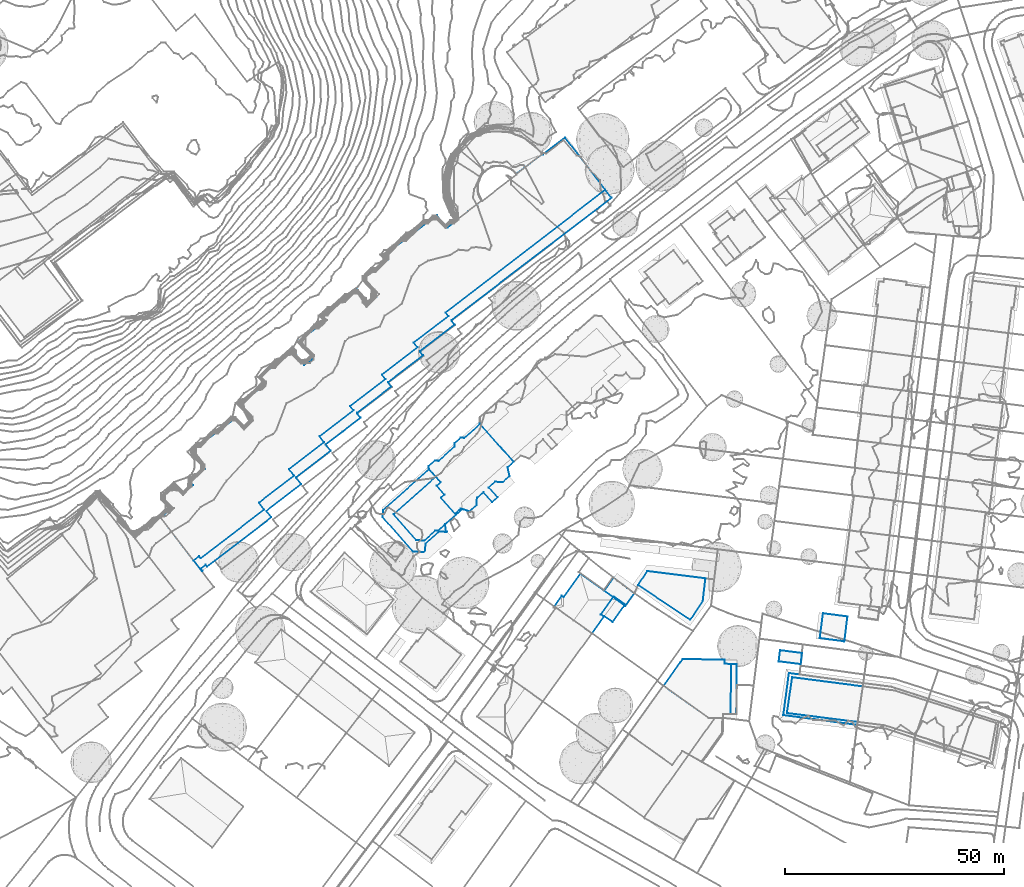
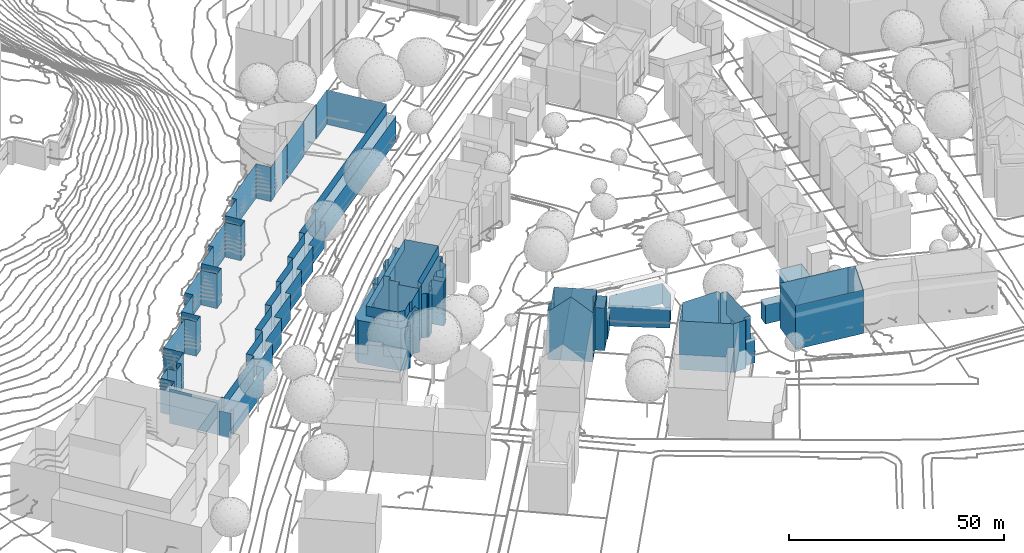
# Not in any storey, part 36 of 477: 10 walls.
"""IFC4 building model written with IfcOpenShell, lengths in metres."""

import ifcopenshell
import ifcopenshell.guid

model = None  # the IFC model being written
_history = None  # IfcOwnerHistory: only IFC2X3 demands one
_inside = {}  # id of a spatial element -> (the spatial element, [elements in it])
_under = {}  # id of a project, library or spatial element -> (it, [spatial elements below it])
_declared = {}  # id of a project -> (the project, [libraries it declares])
_typed = {}  # id of a type object -> (the type object, [elements of that type])
_made_of = {}  # id of a material, layer set ... -> (it, [elements and type objects made of it])


def new_model(schema):
    """Start an empty IFC model of exactly this schema.

    Asked for "IFC4X3", IfcOpenShell would pick the latest addendum, in which some entities
    have other attributes; the version numbers below select the first issue.
    IFC2X3 requires an IfcOwnerHistory on every rooted entity: one is made here for all.
    """
    global model, _history
    if schema == "IFC4X3":
        model = ifcopenshell.file(schema_version=(4, 3, 0, 0))
    else:
        model = ifcopenshell.file(schema=schema)
    _inside.clear()
    _under.clear()
    _declared.clear()
    _typed.clear()
    _made_of.clear()
    _history = None
    if model.schema == "IFC2X3":
        org = make("IfcOrganization", Name="unknown")
        user = make(
            "IfcPersonAndOrganization",
            ThePerson=make("IfcPerson", FamilyName="unknown"),
            TheOrganization=org,
        )
        app = make(
            "IfcApplication",
            ApplicationDeveloper=org,
            Version="unknown",
            ApplicationFullName="unknown",
            ApplicationIdentifier="unknown",
        )
        _history = make(
            "IfcOwnerHistory",
            OwningUser=user,
            OwningApplication=app,
            ChangeAction="ADDED",
            CreationDate=0,
        )
    return model


def make(cls, **values):
    """One entity of the class cls with the attributes given. An attribute that is None is left unset."""
    return model.create_entity(
        cls, **{name: value for name, value in values.items() if value is not None}
    )


def rooted(cls, **values):
    """An entity with a GlobalId (a new one), such as an element, a storey or a relation."""
    return make(cls, GlobalId=ifcopenshell.guid.new(), OwnerHistory=_history, **values)


def si_unit(unit_type, name, prefix=None):
    """IfcSIUnit, for example si_unit("LENGTHUNIT", "METRE", prefix="MILLI")."""
    return make("IfcSIUnit", UnitType=unit_type, Prefix=prefix, Name=name)


def assignment(units):
    """IfcUnitAssignment: the units of a project."""
    return None if units is None else make("IfcUnitAssignment", Units=units)


def point(xyz):
    """IfcCartesianPoint."""
    return None if xyz is None else make("IfcCartesianPoint", Coordinates=xyz)


def direction(xyz):
    """IfcDirection."""
    return None if xyz is None else make("IfcDirection", DirectionRatios=xyz)


def frame(location, z_axis=None, x_axis=None):
    """IfcAxis2Placement3D, a coordinate frame: its origin and axes. An axis left out is left unset."""
    return make(
        "IfcAxis2Placement3D",
        Location=point(location),
        Axis=direction(z_axis),
        RefDirection=direction(x_axis),
    )


def origin_with_axes():
    """The frame at (0, 0, 0) with the z axis (0, 0, 1) and the x axis (1, 0, 0) written out."""
    return frame((0.0, 0.0, 0.0), z_axis=(0.0, 0.0, 1.0), x_axis=(1.0, 0.0, 0.0))


def place(relative_to, where):
    """IfcLocalPlacement: puts the frame where relative to a parent placement (None: the world)."""
    return make(
        "IfcLocalPlacement", PlacementRelTo=relative_to, RelativePlacement=where
    )


def context(
    kind, dimensions, precision=None, world=None, true_north=None, identifier=None
):
    """IfcGeometricRepresentationContext, for example the 3D "Model" context."""
    return make(
        "IfcGeometricRepresentationContext",
        ContextIdentifier=identifier,
        ContextType=kind,
        CoordinateSpaceDimension=dimensions,
        Precision=precision,
        WorldCoordinateSystem=world,
        TrueNorth=true_north,
    )


def subcontext(parent, identifier, kind, view, scale=None):
    """IfcGeometricRepresentationSubContext, for example "Body" below "Model"."""
    return make(
        "IfcGeometricRepresentationSubContext",
        ContextIdentifier=identifier,
        ContextType=kind,
        ParentContext=parent,
        TargetScale=scale,
        TargetView=view,
    )


def project(units=None, contexts=None):
    """IfcProject with its units and contexts."""
    return rooted(
        "IfcProject",
        Name="project",
        RepresentationContexts=contexts,
        UnitsInContext=assignment(units),
    )


def spatial(cls, under=None, at=None, **own):
    """A site, building, storey or space (cls), placed at a placement, below another one or the project."""
    s = rooted(cls, ObjectPlacement=at, **own)
    if under is not None:
        _under.setdefault(under.id(), (under, []))[1].append(s)
    return s


def point_list(points):
    """IfcCartesianPointList2D or 3D."""
    cls = (
        "IfcCartesianPointList2D" if len(points[0]) == 2 else "IfcCartesianPointList3D"
    )
    return make(cls, CoordList=points)


def polygons(points, faces, closed=None, point_numbers=None):
    """IfcPolygonalFaceSet: a face is its outer loop, then its inner loops; points numbered from 1."""
    made = []
    for loops in faces:
        if len(loops) == 1:
            made.append(make("IfcIndexedPolygonalFace", CoordIndex=loops[0]))
        else:
            made.append(
                make(
                    "IfcIndexedPolygonalFaceWithVoids",
                    CoordIndex=loops[0],
                    InnerCoordIndices=loops[1:],
                )
            )
    return make(
        "IfcPolygonalFaceSet",
        Coordinates=point_list(points),
        Closed=closed,
        Faces=made,
        PnIndex=point_numbers,
    )


def shape(context_of_items, identifier, shape_type, items):
    """IfcShapeRepresentation: the items that make up one representation, for example the "Body"."""
    return make(
        "IfcShapeRepresentation",
        ContextOfItems=context_of_items,
        RepresentationIdentifier=identifier,
        RepresentationType=shape_type,
        Items=items,
    )


def made_of(thing, what):
    """Note that an element or type object is made of a material, layer set ...; save() writes the relation."""
    if what is not None:
        _made_of.setdefault(what.id(), (what, []))[1].append(thing)
    return thing


def element(
    cls,
    number,
    at=None,
    inside=None,
    cuts=None,
    type_object=None,
    material=None,
    context=None,
    identifier="Body",
    shape_type=None,
    held_by="IfcProductDefinitionShape",
    body=None,
    shapes=None,
    **own,
):
    """One element of the class cls, such as IfcWall. Its Tag is "e" and its number.

    at: its placement. inside: the storey or other place that contains it. cuts: it is an
    opening in that element (IfcRelVoidsElement). A single representation is given by context,
    identifier, shape_type and body (its items); several are given by shapes. held_by: the class
    of the entity that holds the representations. save() writes the other relations.
    """
    e = rooted(cls, Tag="e%d" % number, ObjectPlacement=at, **own)
    if body is not None:
        shapes = [shape(context, identifier, shape_type, body)]
    if shapes is not None:
        e.Representation = make(held_by, Representations=shapes)
    if inside is not None:
        _inside.setdefault(inside.id(), (inside, []))[1].append(e)
    if cuts is not None:
        rooted(
            "IfcRelVoidsElement", RelatingBuildingElement=cuts, RelatedOpeningElement=e
        )
    if type_object is not None:
        _typed.setdefault(type_object.id(), (type_object, []))[1].append(e)
    return made_of(e, material)


def aggregate(whole, parts):
    """IfcRelAggregates: a whole, such as a stair, and the parts it consists of."""
    return rooted("IfcRelAggregates", RelatingObject=whole, RelatedObjects=parts)


def save(model, path):
    """Write the relations noted so far, then the file.

    IfcRelAggregates (storeys below a building ...), IfcRelContainedInSpatialStructure (elements
    in a storey), IfcRelDefinesByType, IfcRelAssociatesMaterial and IfcRelDeclares: one each for
    every whole, place, type object, material and project.
    """
    for whole, parts in _under.values():
        aggregate(whole, parts)
    for where, things in _inside.values():
        rooted(
            "IfcRelContainedInSpatialStructure",
            RelatedElements=things,
            RelatingStructure=where,
        )
    for kind, things in _typed.values():
        rooted("IfcRelDefinesByType", RelatedObjects=things, RelatingType=kind)
    for what, things in _made_of.values():
        rooted("IfcRelAssociatesMaterial", RelatedObjects=things, RelatingMaterial=what)
    for by, libraries in _declared.values():
        rooted("IfcRelDeclares", RelatingContext=by, RelatedDefinitions=libraries)
    model.write(path)


model = new_model("IFC4")

# Units and contexts
model_context = context("Model", 3, precision=1e-05, world=origin_with_axes())
body_context = subcontext(model_context, "Body", "Model", "MODEL_VIEW")
ifc_project = project(units=[si_unit("AREAUNIT", "SQUARE_METRE"), si_unit("LENGTHUNIT", "METRE")], contexts=[model_context])

# Sites, building
site_1_placement = place(None, origin_with_axes())
site_1 = spatial("IfcSite", under=ifc_project, at=site_1_placement, Name="Topoexport Site")
site_2_placement = place(site_1_placement, origin_with_axes())
site_2 = spatial("IfcSite", under=site_1, at=site_2_placement, Name="TPX_BUILDINGS")
building_1_placement = place(site_2_placement, frame((340.8067320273, 67.2771160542, 499.5586), z_axis=(0.0, 0.0, 1.0), x_axis=(1.0, 0.0, 0.0)))
building_1 = spatial("IfcBuilding", under=site_2, at=building_1_placement, Name="Building 0", CompositionType="ELEMENT")

# Wall
wall_1_placement = place(None, frame((340.8067320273, 67.2771160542, 499.5586), z_axis=(0.0, 0.0, 1.0), x_axis=(1.0, 0.0, 0.0)))
element("IfcWall", 1, at=wall_1_placement, inside=building_1, Name="Wall 0", context=body_context, shape_type="Tessellation", body=[
    polygons([(7.5969999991, -9.3476000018, 0.095), (6.2359999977, -10.5556000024, 15.3595), (7.5969999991, -9.3476000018, 15.3595), (7.5209999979, -7.7851000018, 12.5588), (7.5929999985, -9.2568000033, 12.5588), (7.5209999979, -7.7851000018, 15.3595), (7.5929999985, -9.2568000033, 0.095), (18.8200000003, 2.2441999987, 12.5588), (18.8200000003, 2.2441999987, 15.3595), (1.6530000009, -1.8671000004, 12.5588), (13.2949999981, 8.4667999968, 15.3595), (1.6530000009, -1.8671000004, 15.3595), (11.699000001, 10.0976999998, 0.0), (11.7049999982, 10.2568999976, 12.5588), (11.699000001, 10.0976999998, 12.5588), (8.1259999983, 6.9316999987, 0.0), (8.1259999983, 6.9316999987, 12.5588), (8.0399999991, 7.0283999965, 0.0), (8.0399999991, 7.0283999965, 12.5588), (7.3550000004, 7.0566999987, 0.0), (7.3550000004, 7.0566999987, 12.5588), (5.9439999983, 5.8046999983, 0.0), (5.9439999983, 5.8046999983, 12.5588), (5.8999999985, 5.1328999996, 0.0), (5.8999999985, 5.1328999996, 12.5588), (5.9859999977, 5.0351999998, 0.0), (5.9859999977, 5.0351999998, 12.5588), (2.2349999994, 1.7138999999, 0.0), (2.2349999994, 1.7138999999, 12.5588), (2.1490000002, 1.8105999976, 0.0), (2.1490000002, 1.8105999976, 12.5588), (1.4869999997, 1.8486999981, 0.0), (1.4869999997, 1.8486999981, 12.5588), (0.0379999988, 0.5615999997, 0.0), (0.0379999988, 0.5615999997, 12.5588), (0.0, 0.0, 0.0), (0.0, 0.0, 12.5588), (9.0009999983, -9.7988000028, 0.0), (8.8339999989, -9.6103000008, 12.5588), (9.0009999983, -9.7988000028, 12.5588), (9.3159999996, -9.8183000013, 0.0), (9.3159999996, -9.8183000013, 12.5588), (10.9439999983, -8.3740000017, 0.0), (10.9439999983, -8.3740000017, 12.5588), (11.0419999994, -6.6972000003, 0.0), (11.0419999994, -6.6972000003, 12.5588), (12.5170000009, -5.3916000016, 0.0), (12.5170000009, -5.3916000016, 12.5588), (14.5480000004, -7.6601000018, 0.0), (14.5480000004, -7.6601000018, 12.5588), (15.7719999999, -6.5732000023, 0.0), (15.7719999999, -6.5732000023, 12.5588), (13.7280000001, -4.3193000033, 0.0), (13.7280000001, -4.3193000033, 12.5588), (15.1950000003, -3.0205000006, 0.0), (15.1950000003, -3.0205000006, 12.5588), (16.8829999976, -3.1611000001, 0.0), (16.8829999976, -3.1611000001, 12.5588), (18.4919999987, -1.7119000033, 0.0), (18.4919999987, -1.7119000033, 12.5588), (18.0460000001, 0.2822999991, 0.0), (18.0460000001, 0.2822999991, 12.5588), (19.4529999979, 1.5312999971, 0.0), (19.4529999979, 1.5312999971, 12.5588), (7.3299999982, -9.1816000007, 0.0), (6.0359999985, -10.3291000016, 0.0), (7.3299999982, -9.1816000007, 0.095), (8.8339999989, -9.6103000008, 0.0), (1.862999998, -3.9589000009, 0.0), (2.7839999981, -3.1435000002, 15.3595), (1.862999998, -3.9589000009, 15.3595), (6.2359999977, -10.5556000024, 0.095), (6.0359999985, -10.3291000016, 0.095), (2.8039999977, -6.6796000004, 15.3595), (2.8039999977, -6.6796000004, 0.0), (13.2949999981, 8.4667999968, 12.5588), (11.7049999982, 10.2568999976, 0.0), (2.7839999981, -3.1435000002, 0.0), (3.6270000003, -5.9501000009, 0.0), (3.6270000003, -5.9501000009, 15.3595)], [[[3, 2, 1]], [[6, 5, 4]], [[5, 6, 3]], [[5, 1, 7]], [[1, 5, 3]], [[9, 6, 8]], [[12, 11, 10]], [[15, 14, 13]], [[17, 15, 16]], [[19, 17, 18]], [[21, 19, 20]], [[23, 21, 22]], [[25, 23, 24]], [[27, 25, 26]], [[29, 27, 28]], [[31, 29, 30]], [[33, 31, 32]], [[35, 33, 34]], [[37, 35, 36]], [[40, 39, 38]], [[42, 40, 41]], [[44, 42, 43]], [[46, 44, 45]], [[48, 46, 47]], [[50, 48, 49]], [[52, 50, 51]], [[54, 52, 53]], [[56, 54, 55]], [[58, 56, 57]], [[60, 58, 59]], [[62, 60, 61]], [[64, 62, 63]], [[67, 66, 65]], [[68, 39, 7]], [[7, 39, 5]], [[7, 67, 65]], [[7, 65, 68]], [[71, 70, 69]], [[2, 73, 72]], [[73, 2, 74]], [[73, 75, 66]], [[75, 73, 74]], [[77, 76, 63]], [[76, 77, 14]], [[9, 8, 11]], [[64, 63, 8]], [[70, 12, 10]], [[78, 10, 36]], [[10, 78, 70]], [[80, 71, 79]], [[74, 80, 75]], [[2, 72, 1]], [[6, 4, 8]], [[11, 76, 10]], [[14, 77, 13]], [[15, 13, 16]], [[17, 16, 18]], [[19, 18, 20]], [[21, 20, 22]], [[23, 22, 24]], [[25, 24, 26]], [[27, 26, 28]], [[29, 28, 30]], [[31, 30, 32]], [[33, 32, 34]], [[35, 34, 36]], [[39, 68, 38]], [[40, 38, 41]], [[42, 41, 43]], [[44, 43, 45]], [[46, 45, 47]], [[48, 47, 49]], [[50, 49, 51]], [[52, 51, 53]], [[54, 53, 55]], [[56, 55, 57]], [[58, 57, 59]], [[60, 59, 61]], [[62, 61, 63]], [[73, 66, 67]], [[70, 78, 69]], [[76, 8, 63]], [[8, 76, 11]], [[10, 37, 36]], [[71, 69, 79]], [[80, 79, 75]]]),
])

# Building
building_2_placement = place(site_2_placement, frame((330.2977320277, 56.1951160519, 500.0165), z_axis=(0.0, 0.0, 1.0), x_axis=(1.0, 0.0, 0.0)))
building_2 = spatial("IfcBuilding", under=site_2, at=building_2_placement, Name="Building 1", CompositionType="ELEMENT")

# Wall
wall_2_placement = place(None, frame((330.2977320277, 56.1951160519, 500.0165), z_axis=(0.0, 0.0, 1.0), x_axis=(1.0, 0.0, 0.0)))
element("IfcWall", 2, at=wall_2_placement, inside=building_2, Name="Wall 0", context=body_context, shape_type="Tessellation", body=[
    polygons([(16.7449999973, 0.5263999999, -0.028), (14.3189999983, -1.6279000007, 12.1009), (16.7449999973, 0.5263999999, 14.9016), (12.6629999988, -3.0986000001, 14.9016), (12.6629999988, -3.0986000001, -0.028), (14.3189999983, -1.6279000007, 0.0), (12.6629999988, -3.0986000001, 12.1009), (12.6629999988, -3.0986000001, 0.0), (13.3129999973, 4.4024000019, 14.9016), (13.3129999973, 4.4024000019, -0.028), (13.2929999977, 7.938500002, -0.028), (12.3719999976, 7.1231000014, 14.9016), (13.2929999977, 7.938500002, 14.9016), (2.4809999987, 0.6220999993, 12.1009), (12.1620000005, 9.2149000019, 14.9016), (2.4809999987, 0.6220999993, 14.9016), (7.6979999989, -5.254900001, -0.028), (2.4809999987, 0.6220999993, 0.0), (7.6979999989, -5.254900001, 0.0), (9.4509999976, -5.4442999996, -0.028), (9.4509999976, -5.4442999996, 0.0), (12.0229999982, -3.1611000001, -0.028), (12.0229999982, -3.1611000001, 0.0), (0.1019999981, 1.5967000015, 0.0), (10.6409999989, 10.932599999, 12.1009), (0.1019999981, 1.5967000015, 12.1009), (0.0, 0.0, 0.0), (0.0, 0.0, 12.1009), (6.9910000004, -7.8768999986, 0.0), (6.9910000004, -7.8768999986, 12.1009), (9.3449999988, -8.0175999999, 0.0), (9.3449999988, -8.0175999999, 12.1009), (9.7049999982, -7.7245999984, 0.0), (9.7049999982, -7.7245999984, 12.1009), (9.8019999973, -6.0546999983, 0.0), (9.8019999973, -6.0546999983, 12.1009), (12.8499999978, -3.316399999, 0.0), (12.8499999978, -3.316399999, 12.1009), (14.5249999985, -3.4404000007, 0.0), (14.5249999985, -3.4404000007, 12.1009), (14.6799999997, -3.3037, 0.0), (14.6799999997, -3.3037, 12.1009), (14.3640000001, -2.9481999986, 0.0), (14.3640000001, -2.9481999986, 12.1009), (14.1359999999, 5.1319000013, -0.028), (14.1359999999, 5.1319000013, 14.9016), (12.3719999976, 7.1231000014, -0.028), (2.4809999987, 0.6220999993, -0.028), (12.1620000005, 9.2149000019, 0.0), (7.6979999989, -5.254900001, 12.1009), (7.6979999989, -5.254900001, 14.9016), (9.4509999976, -5.4442999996, 12.1009), (9.4509999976, -5.4442999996, 14.9016), (12.0229999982, -3.1611000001, 12.1009), (12.0229999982, -3.1611000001, 14.9016), (12.1620000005, 9.2149000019, 12.1009), (12.1620000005, 9.2149000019, -0.028), (10.6409999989, 10.932599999, 0.0)], [[[3, 2, 1]], [[2, 3, 4]], [[1, 6, 5]], [[6, 1, 2]], [[4, 7, 2]], [[8, 5, 6]], [[10, 9, 3]], [[13, 12, 11]], [[16, 15, 14]], [[19, 18, 17]], [[21, 19, 20]], [[23, 21, 22]], [[8, 23, 5]], [[26, 25, 24]], [[28, 26, 27]], [[30, 28, 29]], [[32, 30, 31]], [[34, 32, 33]], [[36, 34, 35]], [[38, 36, 37]], [[40, 38, 39]], [[42, 40, 41]], [[44, 42, 43]], [[46, 9, 45]], [[12, 45, 47]], [[18, 49, 48]], [[51, 16, 50]], [[53, 51, 52]], [[55, 53, 54]], [[4, 55, 7]], [[2, 44, 6]], [[56, 49, 25]], [[57, 49, 11]], [[56, 13, 11]], [[3, 1, 10]], [[12, 47, 11]], [[15, 56, 14]], [[18, 48, 17]], [[19, 17, 20]], [[21, 20, 22]], [[23, 22, 5]], [[25, 58, 24]], [[26, 24, 27]], [[28, 27, 29]], [[30, 29, 31]], [[32, 31, 33]], [[34, 33, 35]], [[36, 35, 37]], [[38, 37, 39]], [[40, 39, 41]], [[42, 41, 43]], [[9, 10, 45]], [[46, 45, 12]], [[49, 57, 48]], [[16, 14, 50]], [[51, 50, 52]], [[53, 52, 54]], [[55, 54, 7]], [[44, 43, 6]], [[49, 58, 25]], [[15, 13, 56]], [[11, 49, 56]]]),
])

# Building
building_3_placement = place(site_2_placement, frame((388.6417320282, 40.6092160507, 499.4665), z_axis=(0.0, 0.0, 1.0), x_axis=(1.0, 0.0, 0.0)))
building_3 = spatial("IfcBuilding", under=site_2, at=building_3_placement, Name="Building 5", CompositionType="ELEMENT")

# Wall
wall_3_placement = place(None, frame((388.6417320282, 40.6092160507, 499.4665), z_axis=(0.0, 0.0, 1.0), x_axis=(1.0, 0.0, 0.0)))
element("IfcWall", 3, at=wall_3_placement, inside=building_3, Name="Wall 0", context=body_context, shape_type="Tessellation", body=[
    polygons([(15.425999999, 1.5498000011, 0.0), (14.8159999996, -3.6132999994, 5.8824), (15.425999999, 1.5498000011, 5.8824), (2.1380000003, 3.2187000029, 0.0), (2.1380000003, 3.2187000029, 5.8824), (0.0, 0.0, 0.0), (0.0, 0.0, 5.8824), (11.9599999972, -7.9247999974, 0.0), (11.9599999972, -7.9247999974, 5.8824), (14.8159999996, -3.6132999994, 0.0)], [[[3, 2, 1]], [[5, 3, 4]], [[7, 5, 6]], [[9, 7, 8]], [[2, 9, 10]], [[2, 10, 1]], [[3, 1, 4]], [[5, 4, 6]], [[7, 6, 8]], [[9, 8, 10]]]),
])

# Building
building_4_placement = place(site_2_placement, frame((369.4907320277, 35.7234160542, 499.6315), z_axis=(0.0, 0.0, 1.0), x_axis=(1.0, 0.0, 0.0)))
building_4 = spatial("IfcBuilding", under=site_2, at=building_4_placement, Name="Building 6", CompositionType="ELEMENT")

# Wall
wall_4_placement = place(None, frame((369.4907320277, 35.7234160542, 499.6315), z_axis=(0.0, 0.0, 1.0), x_axis=(1.0, 0.0, 0.0)))
element("IfcWall", 4, at=wall_4_placement, inside=building_4, Name="Wall 0", context=body_context, shape_type="Tessellation", body=[
    polygons([(16.629999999, 4.2685999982, -0.038), (18.318, 3.0195999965, 5.3015), (16.629999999, 4.2685999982, 5.3015), (13.5739999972, 6.5800999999, -0.038), (13.5739999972, 6.5800999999, 5.3015), (11.4210000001, 3.5898999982, 0.0), (11.4210000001, 3.5898999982, 5.3015), (11.4210000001, 3.5898999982, -0.038), (18.318, 3.0195999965, -0.038), (16.2229999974, 0.1318999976, 5.3015), (11.4769999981, -2.2109000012, -0.021), (11.3949999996, -2.3252000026, 12.0918), (11.4769999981, -2.2109000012, 12.0918), (13.3389999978, -3.5127000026, -0.021), (13.3389999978, -3.5127000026, 12.0918), (11.3949999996, -2.3252000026, -0.021), (11.3649999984, -2.3027000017, 0.0), (11.3649999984, -2.3027000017, 12.0918), (10.6519999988, -1.7890000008, -0.021), (16.2009999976, 0.4609999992, 12.0918), (16.2009999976, 0.4609999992, 5.3015), (16.0519999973, 0.2548999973, 5.3015), (16.0519999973, 0.2548999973, -0.021), (13.6149999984, 2.3232999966, 5.3015), (13.6149999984, 2.3232999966, 12.0918), (13.4670000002, 2.1171999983, 0.0), (10.6519999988, -1.7890000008, 0.0), (2.1679999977, 2.1728999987, 0.0), (5.9979999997, 7.495199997, 13.9787), (2.1679999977, 2.1728999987, 13.9787), (1.7650000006, 2.4628999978, 0.0), (1.7650000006, 2.4628999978, 13.9787), (13.4670000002, 2.1171999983, -0.021), (16.2229999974, 0.1318999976, -0.038), (13.4659999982, 2.116299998, 12.0918), (13.4670000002, 2.1171999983, 5.3015), (14.1779999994, 1.6035999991, 12.0918), (14.1779999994, 1.6035999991, 13.9787), (8.5969999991, -6.1464000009, 13.9786), (8.5969999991, -6.1464000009, 0.0), (5.9979999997, 7.495199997, 0.0), (11.4210000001, 3.5898999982, 13.9787), (1.6439999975, 2.2939999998, 14.1017), (0.0, 0.0, 14.1067), (0.0, 0.0, 0.0), (0.5480000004, -0.3916000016, 14.1346), (0.0249999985, -0.0175000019, 14.1326), (4.4399999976, -3.1738000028, 18.1723), (4.4399999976, -3.1738000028, 0.0), (0.5480000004, -0.3916000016, 0.0)], [[[3, 2, 1]], [[5, 3, 4]], [[7, 5, 6]], [[6, 4, 8]], [[2, 10, 9]], [[13, 12, 11]], [[15, 13, 14]], [[12, 17, 16]], [[17, 12, 18]], [[16, 17, 19]], [[22, 21, 20]], [[22, 15, 14]], [[15, 22, 20]], [[22, 14, 23]], [[25, 20, 24]], [[27, 26, 19]], [[30, 29, 28]], [[32, 30, 31]], [[23, 10, 22]], [[34, 23, 33]], [[26, 6, 33]], [[33, 8, 34]], [[8, 33, 6]], [[25, 36, 35]], [[38, 18, 37]], [[18, 38, 39]], [[18, 40, 17]], [[40, 18, 39]], [[29, 7, 41]], [[7, 29, 42]], [[6, 41, 7]], [[42, 38, 35]], [[37, 35, 38]], [[36, 7, 35]], [[35, 7, 42]], [[44, 43, 32]], [[44, 32, 45]], [[32, 31, 45]], [[47, 44, 46]], [[39, 48, 46]], [[49, 39, 46]], [[46, 44, 50]], [[45, 50, 44]], [[49, 40, 39]], [[49, 46, 50]], [[2, 9, 1]], [[3, 1, 4]], [[5, 4, 6]], [[10, 34, 9]], [[12, 16, 11]], [[13, 11, 14]], [[17, 27, 19]], [[20, 21, 24]], [[26, 33, 19]], [[29, 41, 28]], [[30, 28, 31]], [[34, 10, 23]], [[24, 36, 25]]]),
])

# Building
building_5_placement = place(site_2_placement, frame((394.4647320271, 17.5984160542, 499.0235), z_axis=(0.0, 0.0, 1.0), x_axis=(1.0, 0.0, 0.0)))
building_5 = spatial("IfcBuilding", under=site_2, at=building_5_placement, Name="Building 22", CompositionType="ELEMENT")

# Wall
wall_5_placement = place(None, frame((394.4647320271, 17.5984160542, 499.0235), z_axis=(0.0, 0.0, 1.0), x_axis=(1.0, 0.0, 0.0)))
element("IfcWall", 5, at=wall_5_placement, inside=building_5, Name="Wall 0", context=body_context, shape_type="Tessellation", body=[
    polygons([(13.938000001, 5.995199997, 0.0), (13.9409999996, 5.0370999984, 13.8347), (13.938000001, 5.995199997, 13.8347), (10.2760000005, -7.3496000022, 0.0), (0.0, 0.0, 13.8347), (10.2760000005, -7.3496000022, 13.8347), (13.493999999, -7.3613000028, 0.0), (13.495000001, -7.3378000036, 7.1923), (13.493999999, -7.3613000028, 13.8347), (13.6490000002, -6.4091000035, 0.0), (13.6359999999, -7.3623000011, 13.8347), (13.6490000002, -6.4091000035, 13.8347), (15.4910000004, 5.0146999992, 7.1923), (15.3619999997, -6.4326000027, 7.1923), (15.4910000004, 5.0146999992, 13.8347), (16.7879999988, 4.995199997, 0.0), (16.6579999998, -6.4521000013, 7.1923), (16.7879999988, 4.995199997, 7.1923), (4.3720000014, 6.1025999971, 0.0), (4.3720000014, 6.1025999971, 13.8347), (13.6359999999, -7.3623000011, 0.0), (15.4910000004, 5.0146999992, 0.0), (13.9409999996, 5.0370999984, 0.0), (0.0, 0.0, 0.0), (3.7740000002, 5.2734999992, 13.8347), (3.7740000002, 5.2734999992, 0.0), (11.8640000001, -7.3427000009, 13.8347), (11.8640000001, -7.3427000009, 0.0), (13.495000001, -7.3369000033, 0.0), (12.8969999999, -7.3437000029, 0.0), (13.495000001, -7.3369000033, 13.8347), (11.7419999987, -7.3427000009, 0.0), (11.7419999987, -7.3427000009, 13.8347), (15.3619999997, -6.433600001, 0.0), (16.6579999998, -6.4521000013, 0.0), (15.3619999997, -6.433600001, 13.8347)], [[[3, 2, 1]], [[6, 5, 4]], [[9, 8, 7]], [[12, 11, 10]], [[15, 14, 13]], [[18, 17, 16]], [[19, 3, 1]], [[3, 19, 20]], [[11, 9, 21]], [[23, 13, 22]], [[18, 22, 13]], [[5, 25, 24]], [[19, 26, 20]], [[28, 8, 27]], [[30, 29, 8]], [[28, 30, 8]], [[8, 31, 27]], [[28, 27, 32]], [[32, 33, 4]], [[34, 17, 14]], [[34, 35, 17]], [[14, 12, 10]], [[12, 14, 36]], [[14, 10, 34]], [[2, 23, 1]], [[5, 24, 4]], [[31, 8, 9]], [[8, 29, 7]], [[11, 21, 10]], [[36, 14, 15]], [[17, 35, 16]], [[9, 7, 21]], [[2, 15, 13]], [[2, 13, 23]], [[16, 22, 18]], [[25, 26, 24]], [[26, 25, 20]], [[27, 33, 32]], [[33, 6, 4]]]),
])

# Building
building_6_placement = place(site_2_placement, frame((420.8027320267, 23.1951160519, 499.3155), z_axis=(0.0, 0.0, 1.0), x_axis=(1.0, 0.0, 0.0)))
building_6 = spatial("IfcBuilding", under=site_2, at=building_6_placement, Name="Building 24", CompositionType="ELEMENT")

# Wall
wall_6_placement = place(None, frame((420.8027320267, 23.1951160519, 499.3155), z_axis=(0.0, 0.0, 1.0), x_axis=(1.0, 0.0, 0.0)))
element("IfcWall", 6, at=wall_6_placement, inside=building_6, Name="Wall 0", context=body_context, shape_type="Tessellation", body=[
    polygons([(0.3220000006, 2.5313000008, 0.0), (5.3189999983, 1.8975000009, 5.3155), (0.3220000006, 2.5313000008, 5.3155), (0.0, 0.0, 0.0), (0.0, 0.0, 5.3155), (5.0469999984, -0.6405999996, 0.0), (5.0469999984, -0.6405999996, 5.3155), (5.3189999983, 1.8975000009, 0.0)], [[[3, 2, 1]], [[5, 3, 4]], [[7, 5, 6]], [[2, 7, 8]], [[2, 8, 1]], [[3, 1, 4]], [[5, 4, 6]], [[7, 6, 8]]]),
])

# Building
building_7_placement = place(site_2_placement, frame((430.1957320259, 28.5057160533, 499.7544), z_axis=(0.0, 0.0, 1.0), x_axis=(1.0, 0.0, 0.0)))
building_7 = spatial("IfcBuilding", under=site_2, at=building_7_placement, Name="Building 29", CompositionType="ELEMENT")

# Wall
wall_7_placement = place(None, frame((430.1957320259, 28.5057160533, 499.7544), z_axis=(0.0, 0.0, 1.0), x_axis=(1.0, 0.0, 0.0)))
element("IfcWall", 7, at=wall_7_placement, inside=building_7, Name="Wall 0", context=body_context, shape_type="Tessellation", body=[
    polygons([(0.7470000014, 5.6649999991, 0.0), (6.3170000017, 4.9305999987, 4.9066), (0.7470000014, 5.6649999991, 4.9066), (0.0, 0.0, 0.0), (0.0, 0.0, 4.9066), (5.6220000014, -0.7412, 0.0), (5.6220000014, -0.7412, 4.9065), (6.3170000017, 4.9305999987, 0.0)], [[[3, 2, 1]], [[5, 3, 4]], [[7, 5, 6]], [[2, 7, 8]], [[2, 8, 1]], [[3, 1, 4]], [[5, 4, 6]], [[7, 6, 8]]]),
])

# Building
building_8_placement = place(site_2_placement, frame((287.111732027, 46.2742160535, 500.3625), z_axis=(0.0, 0.0, 1.0), x_axis=(1.0, 0.0, 0.0)))
building_8 = spatial("IfcBuilding", under=site_2, at=building_8_placement, Name="Building 65", CompositionType="ELEMENT")

# Walls
wall_8_placement = place(None, frame((287.111732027, 46.2742160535, 500.3625), z_axis=(0.0, 0.0, 1.0), x_axis=(1.0, 0.0, 0.0)))
element("IfcWall", 8, at=wall_8_placement, inside=building_8, Name="Wall 0", context=body_context, shape_type="Tessellation", body=[
    polygons([(16.6169999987, 11.3145000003, 0.0), (17.7509999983, 9.8407999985, 0.0), (16.6169999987, 11.3145000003, 7.1803), (24.5659999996, 17.436499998, 0.0), (24.5659999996, 17.436499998, 7.1803), (23.4169999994, 18.936499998, 0.0), (23.4169999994, 18.936499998, 7.1803), (23.5540000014, 19.0409999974, 0.0), (23.5540000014, 19.0409999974, 7.1803), (23.5199999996, 19.0859999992, 0.0), (23.5199999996, 19.0859999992, 7.1803), (31.2809999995, 25.0595999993, 0.0), (31.2809999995, 25.0595999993, 7.1803), (30.180999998, 26.4892999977, 0.0), (30.180999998, 26.4892999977, 7.1803), (30.2039999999, 26.5136999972, 0.0), (30.2039999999, 26.5136999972, 7.1803), (34.0, 29.4287, 0.0), (34.0, 29.4287, 7.1803), (38.131000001, 32.6006000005, 0.0), (38.131000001, 32.6006000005, 7.1803), (37.3959999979, 33.5605999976, 0.0), (37.3959999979, 33.5605999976, 7.1804), (37.4419999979, 33.5956999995, 0.0), (37.4419999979, 33.5956999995, 7.1804), (37.3500000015, 33.7157999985, 0.0), (37.3500000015, 33.7157999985, 7.1804), (45.1600000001, 39.7275999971, 0.0), (45.1600000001, 39.7275999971, 7.1804), (44.4059999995, 40.7099999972, 0.0), (44.4059999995, 40.7099999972, 7.1804), (52.3969999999, 46.8603999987, 0.0), (52.3969999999, 46.8603999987, 7.1804), (51.7580000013, 47.7001999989, 0.0), (51.7580000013, 47.7001999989, 7.1804), (51.8519999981, 47.7724999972, 0.0), (51.8519999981, 47.7724999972, 7.1804), (51.7800000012, 47.8662, 0.0), (51.7800000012, 47.8662, 7.1804), (59.6220000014, 53.9013999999, 0.0), (59.6220000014, 53.9013999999, 7.1804), (58.943, 54.7890999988, 0.0), (58.943, 54.7890999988, 7.1804), (59.006000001, 54.8378999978, 0.0), (59.006000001, 54.8378999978, 7.1804), (58.932, 54.9345999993, 0.0), (58.932, 54.9345999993, 7.1804), (95.4860000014, 82.8574000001, 0.0), (95.4860000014, 82.8574000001, 7.1804), (94.0659999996, 84.7060999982, 0.0), (94.0659999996, 84.7060999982, 7.1804), (57.6119999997, 56.6493999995, 0.0), (57.6119999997, 56.6493999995, 7.1804), (58.2199999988, 55.8594000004, 0.0), (58.2199999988, 55.8594000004, 7.1804), (50.3110000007, 49.7714999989, 0.0), (50.3110000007, 49.7714999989, 7.1804), (51.1259999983, 48.7148999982, 0.0), (51.1259999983, 48.7148999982, 7.1804), (43.0359999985, 42.4872999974, 0.0), (43.0359999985, 42.4872999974, 7.1804), (43.8249999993, 41.4657999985, 0.0), (43.8249999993, 41.4657999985, 7.1804), (35.7699999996, 35.2655999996, 0.0), (35.7699999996, 35.2655999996, 7.1804), (36.5020000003, 34.3154000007, 0.0), (36.5020000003, 34.3154000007, 7.1804), (28.7509999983, 28.3476999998, 0.0), (28.7509999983, 28.3476999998, 7.1804), (29.7670000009, 27.0273999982, 0.0), (29.7670000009, 27.0273999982, 7.1804), (21.7800000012, 20.8798999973, 0.0), (21.7800000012, 20.8798999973, 7.1804), (22.9389999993, 19.373999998, 0.0), (22.9389999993, 19.373999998, 7.1803), (14.9120000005, 13.1963, 0.0), (14.9120000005, 13.1963, 7.1803), (16.1149999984, 11.6327999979, 0.0), (16.1149999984, 11.6327999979, 7.1803), (1.6050000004, 0.4657999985, 0.0), (1.6050000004, 0.4657999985, 7.1803), (1.2320000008, 0.9492000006, 0.0), (1.2320000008, 0.9492000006, 7.1803), (0.0, 0.0, 0.0), (0.0, 0.0, 7.1803), (1.8920000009, -2.4599000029, 0.0), (1.8920000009, -2.4599000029, 7.1803), (1.998999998, -2.3779000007, 0.0), (1.998999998, -2.3779000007, 7.1803), (1.6099999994, -1.8729999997, 0.0), (1.6099999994, -1.8729999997, 7.1803), (2.7769999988, -0.9765000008, 0.0), (2.7769999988, -0.9765000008, 7.1803), (3.1019999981, -1.3984000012, 0.0), (3.1019999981, -1.3984000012, 7.1803), (17.7509999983, 9.8407999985, 7.1803)], [[[3, 2, 1]], [[5, 3, 4]], [[7, 5, 6]], [[9, 7, 8]], [[11, 9, 10]], [[13, 11, 12]], [[15, 13, 14]], [[17, 15, 16]], [[19, 17, 18]], [[21, 19, 20]], [[23, 21, 22]], [[25, 23, 24]], [[27, 25, 26]], [[29, 27, 28]], [[31, 29, 30]], [[33, 31, 32]], [[35, 33, 34]], [[37, 35, 36]], [[39, 37, 38]], [[41, 39, 40]], [[43, 41, 42]], [[45, 43, 44]], [[47, 45, 46]], [[49, 47, 48]], [[51, 49, 50]], [[53, 51, 52]], [[55, 53, 54]], [[57, 55, 56]], [[59, 57, 58]], [[61, 59, 60]], [[63, 61, 62]], [[65, 63, 64]], [[67, 65, 66]], [[69, 67, 68]], [[71, 69, 70]], [[73, 71, 72]], [[75, 73, 74]], [[77, 75, 76]], [[79, 77, 78]], [[81, 79, 80]], [[83, 81, 82]], [[85, 83, 84]], [[87, 85, 86]], [[89, 87, 88]], [[91, 89, 90]], [[93, 91, 92]], [[95, 93, 94]], [[96, 95, 2]], [[96, 2, 3]], [[3, 1, 4]], [[5, 4, 6]], [[7, 6, 8]], [[9, 8, 10]], [[11, 10, 12]], [[13, 12, 14]], [[15, 14, 16]], [[17, 16, 18]], [[19, 18, 20]], [[21, 20, 22]], [[23, 22, 24]], [[25, 24, 26]], [[27, 26, 28]], [[29, 28, 30]], [[31, 30, 32]], [[33, 32, 34]], [[35, 34, 36]], [[37, 36, 38]], [[39, 38, 40]], [[41, 40, 42]], [[43, 42, 44]], [[45, 44, 46]], [[47, 46, 48]], [[49, 48, 50]], [[51, 50, 52]], [[53, 52, 54]], [[55, 54, 56]], [[57, 56, 58]], [[59, 58, 60]], [[61, 60, 62]], [[63, 62, 64]], [[65, 64, 66]], [[67, 66, 68]], [[69, 68, 70]], [[71, 70, 72]], [[73, 72, 74]], [[75, 74, 76]], [[77, 76, 78]], [[79, 78, 80]], [[81, 80, 82]], [[83, 82, 84]], [[85, 84, 86]], [[87, 86, 88]], [[89, 88, 90]], [[91, 90, 92]], [[93, 92, 94]], [[95, 94, 2]]]),
])
wall_9_placement = place(None, frame((287.111732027, 46.2742160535, 500.3625), z_axis=(0.0, 0.0, 1.0), x_axis=(1.0, 0.0, 0.0)))
element("IfcWall", 9, at=wall_9_placement, inside=building_8, Name="Wall 4", context=body_context, shape_type="Tessellation", body=[
    polygons([(79.8079999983, 92.7793000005, 0.246), (84.8759999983, 96.6719000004, 10.0761), (79.8079999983, 92.7793000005, 10.0761), (79.7149999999, 92.9023999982, 0.246), (79.7149999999, 92.9023999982, 10.0761), (73.7399999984, 88.3037, 0.246), (73.7399999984, 88.3037, 10.0761), (73.8330000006, 88.1933999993, 0.246), (73.8330000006, 88.1933999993, 10.0761), (65.881000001, 82.0907999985, 0.246), (65.881000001, 82.0907999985, 10.0761), (65.805999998, 82.1972999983, 0.246), (65.805999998, 82.1972999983, 10.0761), (59.8550000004, 77.6171999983, 0.246), (59.8550000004, 77.6171999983, 10.0761), (59.9290000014, 77.5224999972, 0.246), (59.9290000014, 77.5224999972, 10.0761), (57.987999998, 76.0321999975, 0.246), (57.987999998, 76.0321999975, 10.0761), (57.9169999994, 76.125, 0.246), (57.9169999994, 76.125, 10.0761), (57.8099999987, 76.0429999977, 0.246), (57.8099999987, 76.0429999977, 10.0761), (55.5920000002, 78.9257999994, 0.2461), (55.5920000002, 78.9257999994, 10.0761), (48.7690000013, 73.6845999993, 0.2461), (48.7690000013, 73.6845999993, 10.0761), (43.6530000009, 69.753899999, 0.2461), (43.6530000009, 69.753899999, 10.0761), (44.305999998, 68.9091999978, 0.2461), (44.305999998, 68.9091999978, 10.0761), (44.4690000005, 68.7021999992, 0.2461), (44.4690000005, 68.7021999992, 10.0761), (38.7520000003, 64.3017999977, 0.2461), (38.7520000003, 64.3017999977, 10.0761), (41.8640000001, 60.2568999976, 0.246), (41.8640000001, 60.2568999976, 10.0761), (39.8319999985, 58.6923999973, 0.246), (39.8319999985, 58.6923999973, 10.0761), (37.4019999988, 61.8515999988, 0.2461), (37.4019999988, 61.8515999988, 10.0761), (29.3720000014, 55.6719000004, 0.2461), (29.3720000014, 55.6719000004, 10.0761), (30.1050000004, 54.7196999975, 0.2461), (30.1050000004, 54.7196999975, 10.0761), (24.2609999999, 50.2216999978, 0.2461), (24.2609999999, 50.2216999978, 10.0761), (27.3409999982, 46.2196999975, 0.246), (27.3409999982, 46.2196999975, 10.0761), (25.2809999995, 44.6347999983, 0.246), (25.2809999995, 44.6347999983, 10.0761), (22.7939999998, 47.8671999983, 0.246), (22.7939999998, 47.8671999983, 10.0761), (14.9800000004, 41.8544999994, 0.2461), (14.9800000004, 41.8544999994, 10.0761), (16.2939999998, 40.1464999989, 0.246), (16.2939999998, 40.1464999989, 10.0761), (10.425999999, 35.6308999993, 0.246), (10.425999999, 35.6308999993, 10.0761), (13.373999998, 31.8007999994, 0.246), (13.373999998, 31.8007999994, 10.0761), (11.4160000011, 30.2949000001, 0.246), (11.4160000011, 30.2949000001, 10.0761), (11.3370000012, 30.4052999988, 0.246), (11.3370000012, 30.4052999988, 10.0761), (9.6420000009, 32.5976999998, 0.246), (9.6420000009, 32.5976999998, 10.0761), (-0.4759999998, 24.9521999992, 0.246), (-0.4759999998, 24.9521999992, 10.0761), (2.631000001, 20.9150999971, 0.246), (2.631000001, 20.9150999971, 10.0761), (-0.9030000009, 18.1963, 0.246), (-0.9030000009, 18.1963, 10.0761), (-0.1440000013, 17.2118999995, 0.246), (-0.1440000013, 17.2118999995, 10.0761), (-2.5910000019, 15.3271999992, 0.246), (-2.5910000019, 15.3271999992, 10.0761), (-3.9640000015, 17.1112999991, 0.246), (-3.9640000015, 17.1112999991, 10.0761), (-7.251000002, 14.5810999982, 0.246), (-7.251000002, 14.5810999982, 10.0761), (-5.1009999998, 11.7870999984, 0.246), (-5.1009999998, 11.7870999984, 10.0761), (-7.5949999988, 9.8671999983, 0.246), (-7.5949999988, 9.8671999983, 10.0761), (0.0, 0.0, 0.246), (0.0, 0.0, 10.0761), (1.2320000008, 0.9492000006, 0.246), (1.2320000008, 0.9492000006, 10.0761), (1.6050000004, 0.4657999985, 0.246), (1.6050000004, 0.4657999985, 10.0761), (16.1149999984, 11.6327999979, 0.246), (16.1149999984, 11.6327999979, 10.0761), (14.9120000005, 13.1963, 0.246), (14.9120000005, 13.1963, 10.0761), (22.9389999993, 19.373999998, 0.246), (22.9389999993, 19.3740999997, 10.0761), (21.7800000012, 20.8798999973, 0.246), (21.7800000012, 20.8798999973, 10.0761), (29.7670000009, 27.0273999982, 0.246), (29.7670000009, 27.0273999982, 10.0761), (28.7509999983, 28.3476999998, 0.246), (28.7509999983, 28.3476999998, 10.0761), (36.5020000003, 34.3154000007, 0.246), (36.5020000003, 34.3154000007, 10.0761), (35.7699999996, 35.2655999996, 0.246), (35.7699999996, 35.2655999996, 10.0761), (43.8249999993, 41.4657999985, 0.246), (43.8249999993, 41.4657999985, 10.0761), (43.0359999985, 42.4872999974, 0.246), (43.0359999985, 42.4872999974, 10.0761), (51.1259999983, 48.7148999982, 0.246), (51.1259999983, 48.7148999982, 10.0761), (50.3110000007, 49.7714999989, 0.246), (50.3110000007, 49.7714999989, 10.0761), (58.2199999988, 55.8594000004, 0.246), (58.2199999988, 55.8594000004, 10.0761), (57.6119999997, 56.6493999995, 0.246), (57.6119999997, 56.6493999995, 10.0761), (94.0659999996, 84.7060999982, 0.246), (94.0659999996, 84.7060999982, 10.0761), (84.8759999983, 96.6719000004, 0.246)], [[[3, 2, 1]], [[5, 3, 4]], [[7, 5, 6]], [[9, 7, 8]], [[11, 9, 10]], [[13, 11, 12]], [[15, 13, 14]], [[17, 15, 16]], [[19, 17, 18]], [[21, 19, 20]], [[23, 21, 22]], [[25, 23, 24]], [[27, 25, 26]], [[29, 27, 28]], [[31, 29, 30]], [[33, 31, 32]], [[35, 33, 34]], [[37, 35, 36]], [[39, 37, 38]], [[41, 39, 40]], [[43, 41, 42]], [[45, 43, 44]], [[47, 45, 46]], [[49, 47, 48]], [[51, 49, 50]], [[53, 51, 52]], [[55, 53, 54]], [[57, 55, 56]], [[59, 57, 58]], [[61, 59, 60]], [[63, 61, 62]], [[65, 63, 64]], [[67, 65, 66]], [[69, 67, 68]], [[71, 69, 70]], [[73, 71, 72]], [[75, 73, 74]], [[77, 75, 76]], [[79, 77, 78]], [[81, 79, 80]], [[83, 81, 82]], [[85, 83, 84]], [[87, 85, 86]], [[89, 87, 88]], [[91, 89, 90]], [[93, 91, 92]], [[95, 93, 94]], [[97, 95, 96]], [[99, 97, 98]], [[101, 99, 100]], [[103, 101, 102]], [[105, 103, 104]], [[107, 105, 106]], [[109, 107, 108]], [[111, 109, 110]], [[113, 111, 112]], [[115, 113, 114]], [[117, 115, 116]], [[119, 117, 118]], [[121, 119, 120]], [[2, 121, 122]], [[2, 122, 1]], [[3, 1, 4]], [[5, 4, 6]], [[7, 6, 8]], [[9, 8, 10]], [[11, 10, 12]], [[13, 12, 14]], [[15, 14, 16]], [[17, 16, 18]], [[19, 18, 20]], [[21, 20, 22]], [[23, 22, 24]], [[25, 24, 26]], [[27, 26, 28]], [[29, 28, 30]], [[31, 30, 32]], [[33, 32, 34]], [[35, 34, 36]], [[37, 36, 38]], [[39, 38, 40]], [[41, 40, 42]], [[43, 42, 44]], [[45, 44, 46]], [[47, 46, 48]], [[49, 48, 50]], [[51, 50, 52]], [[53, 52, 54]], [[55, 54, 56]], [[57, 56, 58]], [[59, 58, 60]], [[61, 60, 62]], [[63, 62, 64]], [[65, 64, 66]], [[67, 66, 68]], [[69, 68, 70]], [[71, 70, 72]], [[73, 72, 74]], [[75, 74, 76]], [[77, 76, 78]], [[79, 78, 80]], [[81, 80, 82]], [[83, 82, 84]], [[85, 84, 86]], [[87, 86, 88]], [[89, 88, 90]], [[91, 90, 92]], [[93, 92, 94]], [[95, 94, 96]], [[97, 96, 98]], [[99, 98, 100]], [[101, 100, 102]], [[103, 102, 104]], [[105, 104, 106]], [[107, 106, 108]], [[109, 108, 110]], [[111, 110, 112]], [[113, 112, 114]], [[115, 114, 116]], [[117, 116, 118]], [[119, 118, 120]], [[121, 120, 122]]]),
])

# Building
building_9_placement = place(site_2_placement, frame((421.872732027, 10.8992160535, 499.1825), z_axis=(0.0, 0.0, 1.0), x_axis=(1.0, 0.0, 0.0)))
building_9 = spatial("IfcBuilding", under=site_2, at=building_9_placement, Name="Building 66", CompositionType="ELEMENT")

# Wall
wall_10_placement = place(None, frame((421.872732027, 10.8992160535, 499.1825), z_axis=(0.0, 0.0, 1.0), x_axis=(1.0, 0.0, 0.0)))
element("IfcWall", 10, at=wall_10_placement, inside=building_9, Name="Wall 0", context=body_context, shape_type="Tessellation", body=[
    polygons([(2.0320000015, 8.6543000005, 0.0), (0.8189999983, 0.4648999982, 0.031), (2.0320000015, 8.6543000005, 0.031), (18.1640000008, 6.557599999, 0.0), (18.1640000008, 6.557599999, 0.0309), (0.8189999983, 0.4648999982, 0.0), (17.0190000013, -1.5713, 0.0309), (18.2749999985, 7.3105999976, 0.0), (1.2699999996, 9.6074000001, 12.4288), (1.2699999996, 9.6074000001, 0.0), (18.2749999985, 7.3105999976, 12.6067), (1.4210000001, 9.5878999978, 12.5358), (0.0, 0.0, 12.4088), (0.0, 0.0, 0.0), (17.6270000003, 2.7470999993, 0.0309), (16.9239999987, -2.246100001, 10.4999), (16.9230000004, -2.246100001, 12.4297), (17.6270000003, 2.7470999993, 15.8974), (16.9239999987, -2.246100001, -0.0001), (17.0190000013, -1.5713, -0.0001), (0.1770000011, -0.0224000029, 0.0), (16.875, -2.2402000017, -0.0001), (0.0879999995, -0.0117000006, 12.4718)], [[[3, 2, 1]], [[5, 3, 4]], [[2, 7, 6]], [[10, 9, 8]], [[11, 8, 9]], [[11, 9, 12]], [[14, 13, 10]], [[9, 10, 13]], [[8, 11, 5]], [[5, 4, 8]], [[15, 5, 11]], [[11, 16, 15]], [[18, 17, 16]], [[16, 7, 15]], [[20, 7, 19]], [[19, 7, 16]], [[11, 18, 16]], [[22, 16, 21]], [[22, 19, 16]], [[23, 13, 16]], [[21, 13, 14]], [[21, 16, 13]], [[16, 17, 23]], [[2, 6, 1]], [[3, 1, 4]], [[7, 20, 6]]]),
])

save(model, "model.ifc")
